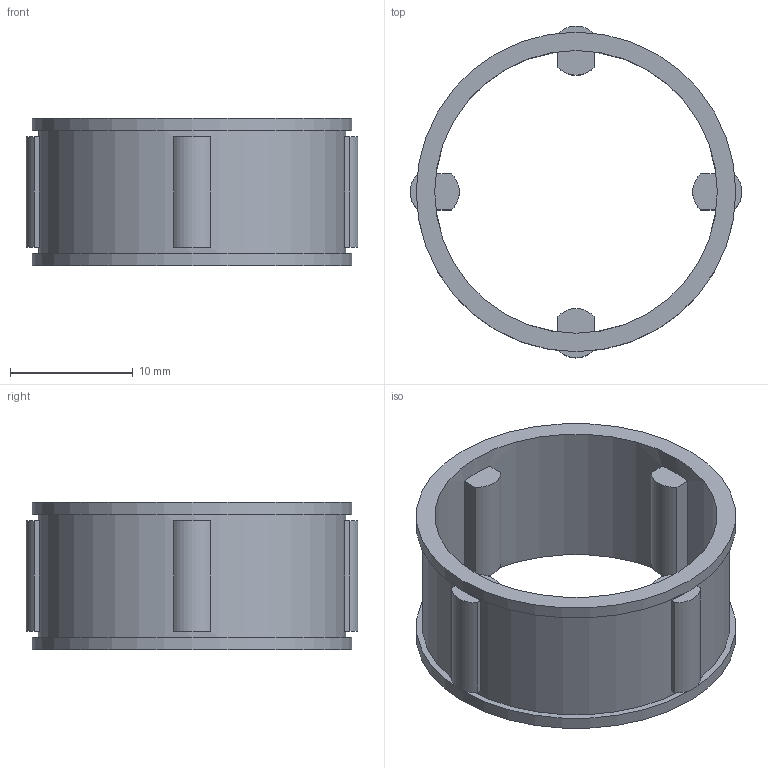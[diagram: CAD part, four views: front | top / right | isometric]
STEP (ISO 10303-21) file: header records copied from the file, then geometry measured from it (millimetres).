
FILE_DESCRIPTION(/* description */ (''),/* implementation_level */ '2;1');
FILE_NAME(/* name */ '300422 FE 427 Z.stp',/* time_stamp */ '2016-11-03T09:58:13+01:00',/* author */ (''),/* organization */ (''),/* preprocessor_version */ 'ST-DEVELOPER v15',/* originating_system */ 'SIEMENS PLM Software NX 8.5',/* authorisation */ '');
FILE_SCHEMA (('CONFIG_CONTROL_DESIGN'));
Length unit declared in the file: millimetre
Products named in the file (1): ATE0000080_01
Bounding box: 27 x 27 x 12 mm (x, y, z)
Volume: 1260.2 mm3; surface area: 2336.3 mm2
Topology: 1 solids, 1 shells, 48 faces, 114 edges, 76 vertices
Faces by surface type: plane 36, cylinder 12
Full cylindrical faces by diameter (mm): 23 x1, 25 x1, 26 x2
Entity records: 1420 total; most frequent: DIRECTION 242, CARTESIAN_POINT 225, ORIENTED_EDGE 208, EDGE_CURVE 104, AXIS2_PLACEMENT_3D 89, VERTEX_POINT 72, LINE 64, VECTOR 64
